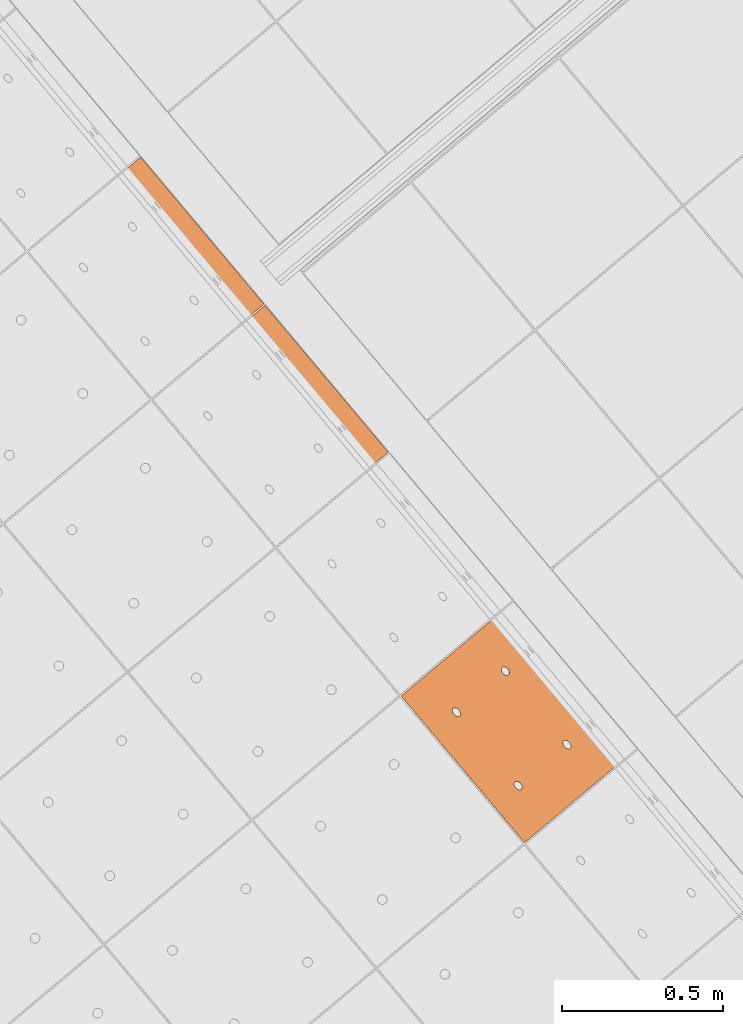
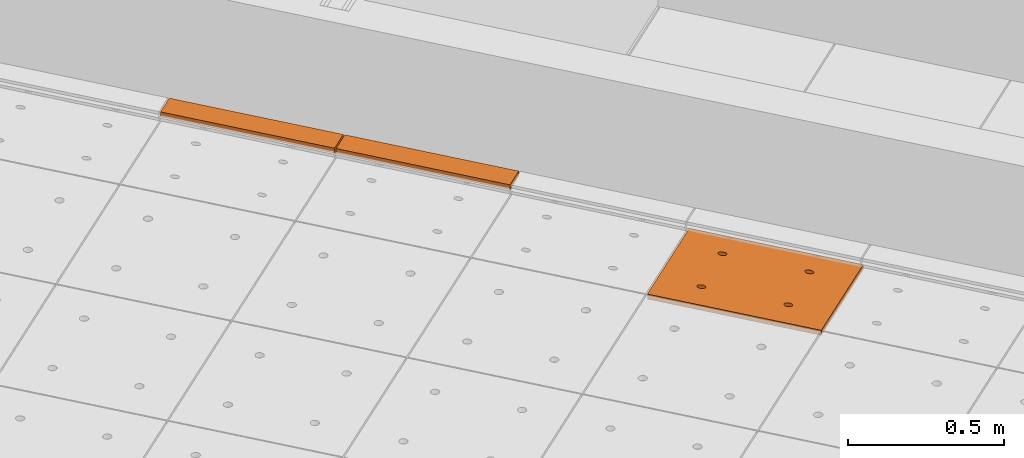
# One storey, part 207 of 338: 3 proxies, 1 element without a shape of its own.
"""IFC2X3 building model written with IfcOpenShell, lengths in millimetres."""

import ifcopenshell
import ifcopenshell.guid

model = None  # the IFC model being written
_history = None  # IfcOwnerHistory: only IFC2X3 demands one
_inside = {}  # id of a spatial element -> (the spatial element, [elements in it])
_under = {}  # id of a project, library or spatial element -> (it, [spatial elements below it])
_declared = {}  # id of a project -> (the project, [libraries it declares])
_typed = {}  # id of a type object -> (the type object, [elements of that type])
_made_of = {}  # id of a material, layer set ... -> (it, [elements and type objects made of it])


def new_model(schema):
    """Start an empty IFC model of exactly this schema.

    Asked for "IFC4X3", IfcOpenShell would pick the latest addendum, in which some entities
    have other attributes; the version numbers below select the first issue.
    IFC2X3 requires an IfcOwnerHistory on every rooted entity: one is made here for all.
    """
    global model, _history
    if schema == "IFC4X3":
        model = ifcopenshell.file(schema_version=(4, 3, 0, 0))
    else:
        model = ifcopenshell.file(schema=schema)
    _inside.clear()
    _under.clear()
    _declared.clear()
    _typed.clear()
    _made_of.clear()
    _history = None
    if model.schema == "IFC2X3":
        org = make("IfcOrganization", Name="unknown")
        user = make(
            "IfcPersonAndOrganization",
            ThePerson=make("IfcPerson", FamilyName="unknown"),
            TheOrganization=org,
        )
        app = make(
            "IfcApplication",
            ApplicationDeveloper=org,
            Version="unknown",
            ApplicationFullName="unknown",
            ApplicationIdentifier="unknown",
        )
        _history = make(
            "IfcOwnerHistory",
            OwningUser=user,
            OwningApplication=app,
            ChangeAction="ADDED",
            CreationDate=0,
        )
    return model


def make(cls, **values):
    """One entity of the class cls with the attributes given. An attribute that is None is left unset."""
    return model.create_entity(
        cls, **{name: value for name, value in values.items() if value is not None}
    )


def entity(cls, *values):
    """Any entity or typed value of the class cls, its attributes in the order of the schema. None: left unset."""
    e = model.create_entity(cls)
    for i, value in enumerate(values):
        if value is not None:
            e[i] = value
    return e


def rooted(cls, **values):
    """An entity with a GlobalId (a new one), such as an element, a storey or a relation."""
    return make(cls, GlobalId=ifcopenshell.guid.new(), OwnerHistory=_history, **values)


def si_unit(unit_type, name, prefix=None):
    """IfcSIUnit, for example si_unit("LENGTHUNIT", "METRE", prefix="MILLI")."""
    return make("IfcSIUnit", UnitType=unit_type, Prefix=prefix, Name=name)


def converted_unit(unit_type, name, factor, base, dimensions=None, offset=None):
    """IfcConversionBasedUnit, such as the inch: factor (a typed value) times the base unit."""
    return make(
        "IfcConversionBasedUnit"
        if offset is None
        else "IfcConversionBasedUnitWithOffset",
        ConversionOffset=offset,
        Dimensions=None
        if dimensions is None
        else entity("IfcDimensionalExponents", *dimensions),
        UnitType=unit_type,
        Name=name,
        ConversionFactor=make(
            "IfcMeasureWithUnit", ValueComponent=factor, UnitComponent=base
        ),
    )


def derived_unit(unit_type, elements):
    """IfcDerivedUnit: a product of units, each with its exponent."""
    return make(
        "IfcDerivedUnit",
        Elements=[
            make("IfcDerivedUnitElement", Unit=unit, Exponent=power)
            for unit, power in elements
        ],
        UnitType=unit_type,
    )


def money_unit(currency):
    """IfcMonetaryUnit."""
    return make("IfcMonetaryUnit", Currency=currency)


def assignment(units):
    """IfcUnitAssignment: the units of a project."""
    return None if units is None else make("IfcUnitAssignment", Units=units)


def point(xyz):
    """IfcCartesianPoint."""
    return None if xyz is None else make("IfcCartesianPoint", Coordinates=xyz)


def direction(xyz):
    """IfcDirection."""
    return None if xyz is None else make("IfcDirection", DirectionRatios=xyz)


def frame(location, z_axis=None, x_axis=None):
    """IfcAxis2Placement3D, a coordinate frame: its origin and axes. An axis left out is left unset."""
    return make(
        "IfcAxis2Placement3D",
        Location=point(location),
        Axis=direction(z_axis),
        RefDirection=direction(x_axis),
    )


def origin_with_axes():
    """The frame at (0, 0, 0) with the z axis (0, 0, 1) and the x axis (1, 0, 0) written out."""
    return frame((0.0, 0.0, 0.0), z_axis=(0.0, 0.0, 1.0), x_axis=(1.0, 0.0, 0.0))


def place(relative_to, where):
    """IfcLocalPlacement: puts the frame where relative to a parent placement (None: the world)."""
    return make(
        "IfcLocalPlacement", PlacementRelTo=relative_to, RelativePlacement=where
    )


def context(
    kind, dimensions, precision=None, world=None, true_north=None, identifier=None
):
    """IfcGeometricRepresentationContext, for example the 3D "Model" context."""
    return make(
        "IfcGeometricRepresentationContext",
        ContextIdentifier=identifier,
        ContextType=kind,
        CoordinateSpaceDimension=dimensions,
        Precision=precision,
        WorldCoordinateSystem=world,
        TrueNorth=true_north,
    )


def subcontext(parent, identifier, kind, view, scale=None):
    """IfcGeometricRepresentationSubContext, for example "Body" below "Model"."""
    return make(
        "IfcGeometricRepresentationSubContext",
        ContextIdentifier=identifier,
        ContextType=kind,
        ParentContext=parent,
        TargetScale=scale,
        TargetView=view,
    )


def project(units=None, contexts=None):
    """IfcProject with its units and contexts."""
    return rooted(
        "IfcProject",
        Name="project",
        RepresentationContexts=contexts,
        UnitsInContext=assignment(units),
    )


def spatial(cls, under=None, at=None, **own):
    """A site, building, storey or space (cls), placed at a placement, below another one or the project."""
    s = rooted(cls, ObjectPlacement=at, **own)
    if under is not None:
        _under.setdefault(under.id(), (under, []))[1].append(s)
    return s


def faces_of(points, faces, orient=None, outer=None):
    """IfcFace entities. A face is a list of loops; a loop is a list of indices into points, from 0.

    orient and outer hold one flag for each loop. By default every Orientation is true, the
    first loop of a face is its IfcFaceOuterBound and the others are IfcFaceBound.
    """
    made = []
    for i, loops in enumerate(faces):
        bounds = []
        for j, loop in enumerate(loops):
            is_outer = j == 0 if outer is None else outer[i][j]
            bounds.append(
                make(
                    "IfcFaceOuterBound" if is_outer else "IfcFaceBound",
                    Bound=make("IfcPolyLoop", Polygon=[points[k] for k in loop]),
                    Orientation=True if orient is None else orient[i][j],
                )
            )
        made.append(make("IfcFace", Bounds=bounds))
    return made


def faceted_brep(points, faces, orient=None, outer=None, voids=None):
    """IfcFacetedBrep: a solid bounded by flat faces; with voids (closed shells), ...WithVoids."""
    shared = [point(p) for p in points]
    hull = make("IfcClosedShell", CfsFaces=faces_of(shared, faces, orient, outer))
    if voids is None:
        return make("IfcFacetedBrep", Outer=hull)
    return make(
        "IfcFacetedBrepWithVoids",
        Outer=hull,
        Voids=[
            make(cls, CfsFaces=faces_of(shared, fs, o, b)) for cls, fs, o, b in voids
        ],
    )


def shape(context_of_items, identifier, shape_type, items):
    """IfcShapeRepresentation: the items that make up one representation, for example the "Body"."""
    return make(
        "IfcShapeRepresentation",
        ContextOfItems=context_of_items,
        RepresentationIdentifier=identifier,
        RepresentationType=shape_type,
        Items=items,
    )


def source(mapping_origin, context_of_items, identifier, shape_type, items):
    """IfcRepresentationMap: a shape defined once, which mapped items show again and again."""
    return make(
        "IfcRepresentationMap",
        MappingOrigin=mapping_origin,
        MappedRepresentation=shape(context_of_items, identifier, shape_type, items),
    )


def transform(
    local_origin,
    x_axis=None,
    y_axis=None,
    z_axis=None,
    scale=None,
    scale2=None,
    scale3=None,
    uniform=True,
):
    """IfcCartesianTransformationOperator3D, or its non-uniform kind. x_axis, y_axis, z_axis: its Axis1, 2, 3."""
    if uniform:
        return make(
            "IfcCartesianTransformationOperator3D",
            Axis1=direction(x_axis),
            Axis2=direction(y_axis),
            LocalOrigin=point(local_origin),
            Scale=scale,
            Axis3=direction(z_axis),
        )
    return make(
        "IfcCartesianTransformationOperator3DnonUniform",
        Axis1=direction(x_axis),
        Axis2=direction(y_axis),
        LocalOrigin=point(local_origin),
        Scale=scale,
        Axis3=direction(z_axis),
        Scale2=scale2,
        Scale3=scale3,
    )


def mapped(mapping_source, mapping_target):
    """IfcMappedItem: shows the shape of a source again, moved by a transform."""
    return make(
        "IfcMappedItem", MappingSource=mapping_source, MappingTarget=mapping_target
    )


def material(Name=None, Category=None):
    """IfcMaterial."""
    return make("IfcMaterial", Name=Name, Category=Category)


def made_of(thing, what):
    """Note that an element or type object is made of a material, layer set ...; save() writes the relation."""
    if what is not None:
        _made_of.setdefault(what.id(), (what, []))[1].append(thing)
    return thing


def type_object(cls, material=None, **own):
    """A type object (cls), such as IfcWallType, which elements share."""
    return made_of(rooted(cls, **own), material)


def type_shapes(of_type, sources):
    """Give a type object the sources (RepresentationMaps) that its elements show as mapped items."""
    of_type.RepresentationMaps = sources


def element(
    cls,
    number,
    at=None,
    inside=None,
    cuts=None,
    type_object=None,
    material=None,
    context=None,
    identifier="Body",
    shape_type=None,
    held_by="IfcProductDefinitionShape",
    body=None,
    shapes=None,
    **own,
):
    """One element of the class cls, such as IfcWall. Its Tag is "e" and its number.

    at: its placement. inside: the storey or other place that contains it. cuts: it is an
    opening in that element (IfcRelVoidsElement). A single representation is given by context,
    identifier, shape_type and body (its items); several are given by shapes. held_by: the class
    of the entity that holds the representations. save() writes the other relations.
    """
    e = rooted(cls, Tag="e%d" % number, ObjectPlacement=at, **own)
    if body is not None:
        shapes = [shape(context, identifier, shape_type, body)]
    if shapes is not None:
        e.Representation = make(held_by, Representations=shapes)
    if inside is not None:
        _inside.setdefault(inside.id(), (inside, []))[1].append(e)
    if cuts is not None:
        rooted(
            "IfcRelVoidsElement", RelatingBuildingElement=cuts, RelatedOpeningElement=e
        )
    if type_object is not None:
        _typed.setdefault(type_object.id(), (type_object, []))[1].append(e)
    return made_of(e, material)


def aggregate(whole, parts):
    """IfcRelAggregates: a whole, such as a stair, and the parts it consists of."""
    return rooted("IfcRelAggregates", RelatingObject=whole, RelatedObjects=parts)


def save(model, path):
    """Write the relations noted so far, then the file.

    IfcRelAggregates (storeys below a building ...), IfcRelContainedInSpatialStructure (elements
    in a storey), IfcRelDefinesByType, IfcRelAssociatesMaterial and IfcRelDeclares: one each for
    every whole, place, type object, material and project.
    """
    for whole, parts in _under.values():
        aggregate(whole, parts)
    for where, things in _inside.values():
        rooted(
            "IfcRelContainedInSpatialStructure",
            RelatedElements=things,
            RelatingStructure=where,
        )
    for kind, things in _typed.values():
        rooted("IfcRelDefinesByType", RelatedObjects=things, RelatingType=kind)
    for what, things in _made_of.values():
        rooted("IfcRelAssociatesMaterial", RelatedObjects=things, RelatingMaterial=what)
    for by, libraries in _declared.values():
        rooted("IfcRelDeclares", RelatingContext=by, RelatedDefinitions=libraries)
    model.write(path)


model = new_model("IFC2X3")

# Units and contexts
model_context = context("Model", 3, precision=0.01, world=origin_with_axes(), true_north=direction((0.0, 1.0)))
plan_context = context("Plan", 3, precision=0.01, world=origin_with_axes(), true_north=direction((0.0, 1.0)))
body_context = subcontext(model_context, "Body", "Model", "MODEL_VIEW")
ifc_project = project(units=[si_unit("LENGTHUNIT", "METRE", prefix="MILLI"), si_unit("AREAUNIT", "SQUARE_METRE"), si_unit("VOLUMEUNIT", "CUBIC_METRE"), converted_unit("PLANEANGLEUNIT", "DEGREE", entity("IfcPlaneAngleMeasure", 0.0174532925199), si_unit("PLANEANGLEUNIT", "RADIAN"), dimensions=[0, 0, 0, 0, 0, 0, 0]), money_unit("EUR"), converted_unit("TIMEUNIT", "Year", entity("IfcTimeMeasure", 31556926.0), si_unit("TIMEUNIT", "SECOND"), dimensions=[0, 0, 1, 0, 0, 0, 0]), si_unit("MASSUNIT", "GRAM", prefix="KILO"), si_unit("THERMODYNAMICTEMPERATUREUNIT", "DEGREE_CELSIUS"), si_unit("LUMINOUSINTENSITYUNIT", "LUMEN"), si_unit("ENERGYUNIT", "JOULE", prefix="MEGA"), derived_unit("THERMALCONDUCTANCEUNIT", [(si_unit("POWERUNIT", "WATT"), 1), (si_unit("LENGTHUNIT", "METRE"), -1), (si_unit("THERMODYNAMICTEMPERATUREUNIT", "KELVIN"), -1)]), derived_unit("SPECIFICHEATCAPACITYUNIT", [(si_unit("ENERGYUNIT", "JOULE"), 1), (si_unit("MASSUNIT", "GRAM", prefix="KILO"), -1), (si_unit("THERMODYNAMICTEMPERATUREUNIT", "KELVIN"), -1)]), derived_unit("MASSDENSITYUNIT", [(si_unit("MASSUNIT", "GRAM", prefix="KILO"), 1), (si_unit("VOLUMEUNIT", "CUBIC_METRE"), -1)])], contexts=[model_context, plan_context])

# Site, building, storey
site_placement = place(None, origin_with_axes())
site = spatial("IfcSite", under=ifc_project, at=site_placement, Name="Fortuinstraat Woensdrecht", CompositionType="ELEMENT")
building_placement = place(site_placement, origin_with_axes())
building = spatial("IfcBuilding", under=site, at=building_placement, Name="IKC Fortuna", CompositionType="ELEMENT")
storey_placement = place(building_placement, origin_with_axes())
storey = spatial("IfcBuildingStorey", under=building, at=storey_placement, Name="00 begane grond", CompositionType="ELEMENT", Elevation=0.0)

# Covering, proxies
covering_type = type_object("IfcCoveringType", Name="Curtain Wall Type", PredefinedType="CEILING")
covering_placement = place(storey_placement, frame((15863.124366, 4456.31398675, 4619.99995334), z_axis=(0.0, 0.0, 1.0), x_axis=(1.0, 0.0, 0.0)))
covering = element("IfcCovering", 1, at=covering_placement, inside=storey, type_object=covering_type, Name="45_Plafondafwerking_P01", PredefinedType="CEILING")
ifc_material = material(Name="Gipsplaat")
building_element_proxy_type_1 = type_object("IfcBuildingElementProxyType", Name="87 x 600 x 20", PredefinedType="NOTDEFINED")
shared_shape_1 = source(origin_with_axes(), body_context, "Body", "Brep", [
    faceted_brep([(142.231818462, 2.49999429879, -10.0), (224.589025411, 2.49999726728, -10.0), (224.589025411, 2.49999726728, 10.0), (142.231818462, 2.49999429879, 10.0), (142.231833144, 597.500001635, -10.0), (224.589035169, 597.499998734, -10.0), (224.589035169, 597.499998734, 10.0), (142.231833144, 597.500001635, 10.0)], [[[0, 1, 2, 3]], [[0, 4, 5, 1]], [[1, 5, 6, 2]], [[3, 2, 6, 7]], [[4, 0, 3, 7]], [[5, 4, 7, 6]]]),
])
proxy_1_placement = place(covering_placement, frame((-2141.31597643, 2551.91971534, 40.0000466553), z_axis=(0.0, 0.0, 1.0), x_axis=(1.0, 0.0, 0.0)))
proxy_1 = element("IfcBuildingElementProxy", 2, at=proxy_1_placement, type_object=building_element_proxy_type_1, material=ifc_material, Name="__600x668 Rockfon Krios", context=body_context, shape_type="MappedRepresentation", body=[
    mapped(shared_shape_1, transform((-52.3358293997, 347.707272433, -1.1901590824e-10), x_axis=(-0.766044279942, -0.642787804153, 0.0), y_axis=(0.642787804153, -0.766044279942, 0.0), z_axis=(0.0, 0.0, 1.0))),
])
shared_shape_2 = source(origin_with_axes(), body_context, "Body", "Brep", [
    faceted_brep([(142.231823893, 2.49999437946, -10.0), (224.589030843, 2.49999734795, -10.0), (224.589030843, 2.49999734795, 10.0), (142.231823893, 2.49999437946, 10.0), (142.231833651, 597.499995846, -10.0), (224.5890406, 597.499998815, -10.0), (224.5890406, 597.499998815, 10.0), (142.231833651, 597.499995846, 10.0)], [[[0, 1, 2, 3]], [[0, 4, 5, 1]], [[1, 5, 6, 2]], [[3, 2, 6, 7]], [[4, 0, 3, 7]], [[5, 4, 7, 6]]]),
])
type_shapes(building_element_proxy_type_1, [shared_shape_1, shared_shape_2])
proxy_2_placement = place(covering_placement, frame((-2526.98865892, 3011.5462833, 40.0000466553), z_axis=(0.0, 0.0, 1.0), x_axis=(1.0, 0.0, 0.0)))
proxy_2 = element("IfcBuildingElementProxy", 3, at=proxy_2_placement, type_object=building_element_proxy_type_1, material=ifc_material, Name="__600x687 Rockfon Krios", context=body_context, shape_type="MappedRepresentation", body=[
    mapped(shared_shape_2, transform((-52.3358293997, 347.707272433, -1.1901590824e-10), x_axis=(-0.766044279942, -0.642787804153, 0.0), y_axis=(0.642787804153, -0.766044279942, 0.0), z_axis=(0.0, 0.0, 1.0))),
])
building_element_proxy_type_2 = type_object("IfcBuildingElementProxyType", Name="Main Panel 401 x 600 x 20", PredefinedType="NOTDEFINED")
shared_shape_3 = source(origin_with_axes(), body_context, "Body", "Brep", [
    faceted_brep([(2.49999200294, 2.49999800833, -10.0), (200.390796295, 2.49999800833, -10.0), (200.390796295, 2.49999800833, 10.0), (2.49999200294, 2.49999800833, 10.0), (2.49999200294, 299.999999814, -10.0), (2.49999200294, 597.50000162, -10.0), (200.390796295, 597.50000162, -10.0), (398.281600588, 597.50000162, -10.0), (398.281600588, 299.999999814, -10.0), (398.281600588, 2.49999800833, -10.0), (111.423081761, 450.062330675, -10.0), (111.119914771, 452.647116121, -10.0), (110.522792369, 455.113489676, -10.0), (109.649857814, 457.38651185, -10.0), (108.527634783, 459.397117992, -10.0), (107.190221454, 461.084216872, -10.0), (105.678254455, 462.39654683, -10.0), (104.037674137, 463.294233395, -10.0), (102.318328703, 463.750000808, -10.0), (100.572459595, 463.750000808, -10.0), (98.8531141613, 463.294233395, -10.0), (97.212533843, 462.39654683, -10.0), (95.7005668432, 461.084216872, -10.0), (94.3631535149, 459.397117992, -10.0), (93.240930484, 457.38651185, -10.0), (92.3679959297, 455.113489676, -10.0), (91.7708735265, 452.647116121, -10.0), (91.4677065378, 450.062330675, -10.0), (91.4677065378, 448.750000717, -10.0), (91.4677065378, 447.437670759, -10.0), (91.7708735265, 444.852885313, -10.0), (92.3679959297, 442.386511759, -10.0), (93.240930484, 440.113489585, -10.0), (94.3631535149, 438.102883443, -10.0), (95.7005668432, 436.415784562, -10.0), (97.212533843, 435.103454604, -10.0), (98.8531141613, 434.205768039, -10.0), (100.572459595, 433.750000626, -10.0), (102.318328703, 433.750000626, -10.0), (104.037674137, 434.205768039, -10.0), (105.678254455, 435.103454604, -10.0), (107.190221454, 436.415784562, -10.0), (108.527634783, 438.102883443, -10.0), (109.649857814, 440.113489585, -10.0), (110.522792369, 442.386511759, -10.0), (111.119914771, 444.852885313, -10.0), (111.423081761, 447.437670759, -10.0), (309.313886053, 450.062330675, -10.0), (309.010719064, 452.647116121, -10.0), (308.413596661, 455.113489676, -10.0), (307.540662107, 457.38651185, -10.0), (306.418439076, 459.397117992, -10.0), (305.081025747, 461.084216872, -10.0), (303.569058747, 462.39654683, -10.0), (301.928478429, 463.294233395, -10.0), (300.209132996, 463.750000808, -10.0), (298.463263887, 463.750000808, -10.0), (296.743918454, 463.294233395, -10.0), (295.103338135, 462.39654683, -10.0), (293.591371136, 461.084216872, -10.0), (292.253957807, 459.397117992, -10.0), (291.131734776, 457.38651185, -10.0), (290.258800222, 455.113489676, -10.0), (289.661677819, 452.647116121, -10.0), (289.35851083, 450.062330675, -10.0), (289.35851083, 448.750000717, -10.0), (289.35851083, 447.437670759, -10.0), (289.661677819, 444.852885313, -10.0), (290.258800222, 442.386511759, -10.0), (291.131734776, 440.113489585, -10.0), (292.253957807, 438.102883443, -10.0), (293.591371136, 436.415784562, -10.0), (295.103338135, 435.103454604, -10.0), (296.743918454, 434.205768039, -10.0), (298.463263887, 433.750000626, -10.0), (300.209132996, 433.750000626, -10.0), (301.928478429, 434.205768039, -10.0), (303.569058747, 435.103454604, -10.0), (305.081025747, 436.415784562, -10.0), (306.418439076, 438.102883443, -10.0), (307.540662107, 440.113489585, -10.0), (308.413596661, 442.386511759, -10.0), (309.010719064, 444.852885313, -10.0), (309.313886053, 447.437670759, -10.0), (309.313886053, 152.562328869, -10.0), (309.010719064, 155.147114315, -10.0), (308.413596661, 157.61348787, -10.0), (307.540662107, 159.886510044, -10.0), (306.418439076, 161.897116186, -10.0), (305.081025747, 163.584215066, -10.0), (303.569058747, 164.896545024, -10.0), (301.928478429, 165.79423159, -10.0), (300.209132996, 166.249999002, -10.0), (298.463263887, 166.249999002, -10.0), (296.743918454, 165.79423159, -10.0), (295.103338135, 164.896545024, -10.0), (293.591371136, 163.584215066, -10.0), (292.253957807, 161.897116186, -10.0), (291.131734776, 159.886510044, -10.0), (290.258800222, 157.61348787, -10.0), (289.661677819, 155.147114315, -10.0), (289.35851083, 152.562328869, -10.0), (289.35851083, 151.249998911, -10.0), (289.35851083, 149.937668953, -10.0), (289.661677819, 147.352883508, -10.0), (290.258800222, 144.886509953, -10.0), (291.131734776, 142.613487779, -10.0), (292.253957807, 140.602881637, -10.0), (293.591371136, 138.915782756, -10.0), (295.103338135, 137.603452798, -10.0), (296.743918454, 136.705766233, -10.0), (298.463263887, 136.24999882, -10.0), (300.209132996, 136.24999882, -10.0), (301.928478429, 136.705766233, -10.0), (303.569058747, 137.603452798, -10.0), (305.081025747, 138.915782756, -10.0), (306.418439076, 140.602881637, -10.0), (307.540662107, 142.613487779, -10.0), (308.413596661, 144.886509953, -10.0), (309.010719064, 147.352883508, -10.0), (309.313886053, 149.937668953, -10.0), (111.423081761, 152.562328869, -10.0), (111.119914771, 155.147114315, -10.0), (110.522792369, 157.61348787, -10.0), (109.649857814, 159.886510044, -10.0), (108.527634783, 161.897116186, -10.0), (107.190221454, 163.584215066, -10.0), (105.678254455, 164.896545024, -10.0), (104.037674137, 165.79423159, -10.0), (102.318328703, 166.249999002, -10.0), (100.572459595, 166.249999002, -10.0), (98.8531141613, 165.79423159, -10.0), (97.212533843, 164.896545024, -10.0), (95.7005668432, 163.584215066, -10.0), (94.3631535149, 161.897116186, -10.0), (93.240930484, 159.886510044, -10.0), (92.3679959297, 157.61348787, -10.0), (91.7708735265, 155.147114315, -10.0), (91.4677065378, 152.562328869, -10.0), (91.4677065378, 151.249998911, -10.0), (91.4677065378, 149.937668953, -10.0), (91.7708735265, 147.352883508, -10.0), (92.3679959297, 144.886509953, -10.0), (93.240930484, 142.613487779, -10.0), (94.3631535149, 140.602881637, -10.0), (95.7005668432, 138.915782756, -10.0), (97.212533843, 137.603452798, -10.0), (98.8531141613, 136.705766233, -10.0), (100.572459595, 136.24999882, -10.0), (102.318328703, 136.24999882, -10.0), (104.037674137, 136.705766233, -10.0), (105.678254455, 137.603452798, -10.0), (107.190221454, 138.915782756, -10.0), (108.527634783, 140.602881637, -10.0), (109.649857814, 142.613487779, -10.0), (110.522792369, 144.886509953, -10.0), (111.119914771, 147.352883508, -10.0), (111.423081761, 149.937668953, -10.0), (398.281600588, 2.49999800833, 10.0), (398.281600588, 299.999999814, 10.0), (398.281600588, 597.50000162, 10.0), (200.390796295, 597.50000162, 10.0), (2.49999200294, 597.50000162, 10.0), (2.49999200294, 299.999999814, 10.0), (111.423081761, 450.062330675, 10.0), (111.423081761, 447.437670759, 10.0), (111.119914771, 444.852885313, 10.0), (110.522792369, 442.386511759, 10.0), (109.649857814, 440.113489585, 10.0), (108.527634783, 438.102883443, 10.0), (107.190221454, 436.415784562, 10.0), (105.678254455, 435.103454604, 10.0), (104.037674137, 434.205768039, 10.0), (102.318328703, 433.750000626, 10.0), (100.572459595, 433.750000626, 10.0), (98.8531141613, 434.205768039, 10.0), (97.212533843, 435.103454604, 10.0), (95.7005668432, 436.415784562, 10.0), (94.3631535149, 438.102883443, 10.0), (93.240930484, 440.113489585, 10.0), (92.3679959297, 442.386511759, 10.0), (91.7708735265, 444.852885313, 10.0), (91.4677065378, 447.437670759, 10.0), (91.4677065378, 448.750000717, 10.0), (91.4677065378, 450.062330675, 10.0), (91.7708735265, 452.647116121, 10.0), (92.3679959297, 455.113489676, 10.0), (93.240930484, 457.38651185, 10.0), (94.3631535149, 459.397117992, 10.0), (95.7005668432, 461.084216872, 10.0), (97.212533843, 462.39654683, 10.0), (98.8531141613, 463.294233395, 10.0), (100.572459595, 463.750000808, 10.0), (102.318328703, 463.750000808, 10.0), (104.037674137, 463.294233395, 10.0), (105.678254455, 462.39654683, 10.0), (107.190221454, 461.084216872, 10.0), (108.527634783, 459.397117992, 10.0), (109.649857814, 457.38651185, 10.0), (110.522792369, 455.113489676, 10.0), (111.119914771, 452.647116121, 10.0), (309.313886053, 450.062330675, 10.0), (309.313886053, 447.437670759, 10.0), (309.010719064, 444.852885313, 10.0), (308.413596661, 442.386511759, 10.0), (307.540662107, 440.113489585, 10.0), (306.418439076, 438.102883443, 10.0), (305.081025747, 436.415784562, 10.0), (303.569058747, 435.103454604, 10.0), (301.928478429, 434.205768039, 10.0), (300.209132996, 433.750000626, 10.0), (298.463263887, 433.750000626, 10.0), (296.743918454, 434.205768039, 10.0), (295.103338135, 435.103454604, 10.0), (293.591371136, 436.415784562, 10.0), (292.253957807, 438.102883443, 10.0), (291.131734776, 440.113489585, 10.0), (290.258800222, 442.386511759, 10.0), (289.661677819, 444.852885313, 10.0), (289.35851083, 447.437670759, 10.0), (289.35851083, 448.750000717, 10.0), (289.35851083, 450.062330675, 10.0), (289.661677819, 452.647116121, 10.0), (290.258800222, 455.113489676, 10.0), (291.131734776, 457.38651185, 10.0), (292.253957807, 459.397117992, 10.0), (293.591371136, 461.084216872, 10.0), (295.103338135, 462.39654683, 10.0), (296.743918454, 463.294233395, 10.0), (298.463263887, 463.750000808, 10.0), (300.209132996, 463.750000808, 10.0), (301.928478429, 463.294233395, 10.0), (303.569058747, 462.39654683, 10.0), (305.081025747, 461.084216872, 10.0), (306.418439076, 459.397117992, 10.0), (307.540662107, 457.38651185, 10.0), (308.413596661, 455.113489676, 10.0), (309.010719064, 452.647116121, 10.0), (309.313886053, 152.562328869, 10.0), (309.313886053, 149.937668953, 10.0), (309.010719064, 147.352883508, 10.0), (308.413596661, 144.886509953, 10.0), (307.540662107, 142.613487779, 10.0), (306.418439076, 140.602881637, 10.0), (305.081025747, 138.915782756, 10.0), (303.569058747, 137.603452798, 10.0), (301.928478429, 136.705766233, 10.0), (300.209132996, 136.24999882, 10.0), (298.463263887, 136.24999882, 10.0), (296.743918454, 136.705766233, 10.0), (295.103338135, 137.603452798, 10.0), (293.591371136, 138.915782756, 10.0), (292.253957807, 140.602881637, 10.0), (291.131734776, 142.613487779, 10.0), (290.258800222, 144.886509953, 10.0), (289.661677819, 147.352883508, 10.0), (289.35851083, 149.937668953, 10.0), (289.35851083, 151.249998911, 10.0), (289.35851083, 152.562328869, 10.0), (289.661677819, 155.147114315, 10.0), (290.258800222, 157.61348787, 10.0), (291.131734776, 159.886510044, 10.0), (292.253957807, 161.897116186, 10.0), (293.591371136, 163.584215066, 10.0), (295.103338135, 164.896545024, 10.0), (296.743918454, 165.79423159, 10.0), (298.463263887, 166.249999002, 10.0), (300.209132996, 166.249999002, 10.0), (301.928478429, 165.79423159, 10.0), (303.569058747, 164.896545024, 10.0), (305.081025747, 163.584215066, 10.0), (306.418439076, 161.897116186, 10.0), (307.540662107, 159.886510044, 10.0), (308.413596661, 157.61348787, 10.0), (309.010719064, 155.147114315, 10.0), (111.423081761, 152.562328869, 10.0), (111.423081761, 149.937668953, 10.0), (111.119914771, 147.352883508, 10.0), (110.522792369, 144.886509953, 10.0), (109.649857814, 142.613487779, 10.0), (108.527634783, 140.602881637, 10.0), (107.190221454, 138.915782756, 10.0), (105.678254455, 137.603452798, 10.0), (104.037674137, 136.705766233, 10.0), (102.318328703, 136.24999882, 10.0), (100.572459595, 136.24999882, 10.0), (98.8531141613, 136.705766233, 10.0), (97.212533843, 137.603452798, 10.0), (95.7005668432, 138.915782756, 10.0), (94.3631535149, 140.602881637, 10.0), (93.240930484, 142.613487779, 10.0), (92.3679959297, 144.886509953, 10.0), (91.7708735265, 147.352883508, 10.0), (91.4677065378, 149.937668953, 10.0), (91.4677065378, 151.249998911, 10.0), (91.4677065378, 152.562328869, 10.0), (91.7708735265, 155.147114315, 10.0), (92.3679959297, 157.61348787, 10.0), (93.240930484, 159.886510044, 10.0), (94.3631535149, 161.897116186, 10.0), (95.7005668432, 163.584215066, 10.0), (97.212533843, 164.896545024, 10.0), (98.8531141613, 165.79423159, 10.0), (100.572459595, 166.249999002, 10.0), (102.318328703, 166.249999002, 10.0), (104.037674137, 165.79423159, 10.0), (105.678254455, 164.896545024, 10.0), (107.190221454, 163.584215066, 10.0), (108.527634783, 161.897116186, 10.0), (109.649857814, 159.886510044, 10.0), (110.522792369, 157.61348787, 10.0), (111.119914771, 155.147114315, 10.0)], [[[0, 1, 2, 3]], [[0, 4, 5, 6, 7, 8, 9, 1], [10, 11, 12, 13, 14, 15, 16, 17, 18, 19, 20, 21, 22, 23, 24, 25, 26, 27, 28, 29, 30, 31, 32, 33, 34, 35, 36, 37, 38, 39, 40, 41, 42, 43, 44, 45, 46], [47, 48, 49, 50, 51, 52, 53, 54, 55, 56, 57, 58, 59, 60, 61, 62, 63, 64, 65, 66, 67, 68, 69, 70, 71, 72, 73, 74, 75, 76, 77, 78, 79, 80, 81, 82, 83], [84, 85, 86, 87, 88, 89, 90, 91, 92, 93, 94, 95, 96, 97, 98, 99, 100, 101, 102, 103, 104, 105, 106, 107, 108, 109, 110, 111, 112, 113, 114, 115, 116, 117, 118, 119, 120], [121, 122, 123, 124, 125, 126, 127, 128, 129, 130, 131, 132, 133, 134, 135, 136, 137, 138, 139, 140, 141, 142, 143, 144, 145, 146, 147, 148, 149, 150, 151, 152, 153, 154, 155, 156, 157]], [[1, 9, 158, 2]], [[3, 2, 158, 159, 160, 161, 162, 163], [164, 165, 166, 167, 168, 169, 170, 171, 172, 173, 174, 175, 176, 177, 178, 179, 180, 181, 182, 183, 184, 185, 186, 187, 188, 189, 190, 191, 192, 193, 194, 195, 196, 197, 198, 199, 200], [201, 202, 203, 204, 205, 206, 207, 208, 209, 210, 211, 212, 213, 214, 215, 216, 217, 218, 219, 220, 221, 222, 223, 224, 225, 226, 227, 228, 229, 230, 231, 232, 233, 234, 235, 236, 237], [238, 239, 240, 241, 242, 243, 244, 245, 246, 247, 248, 249, 250, 251, 252, 253, 254, 255, 256, 257, 258, 259, 260, 261, 262, 263, 264, 265, 266, 267, 268, 269, 270, 271, 272, 273, 274], [275, 276, 277, 278, 279, 280, 281, 282, 283, 284, 285, 286, 287, 288, 289, 290, 291, 292, 293, 294, 295, 296, 297, 298, 299, 300, 301, 302, 303, 304, 305, 306, 307, 308, 309, 310, 311]], [[4, 0, 3, 163]], [[5, 4, 163, 162]], [[6, 5, 162, 161]], [[7, 6, 161, 160]], [[8, 7, 160, 159]], [[9, 8, 159, 158]], [[11, 10, 164, 200]], [[12, 11, 200, 199]], [[13, 12, 199, 198]], [[14, 13, 198, 197]], [[15, 14, 197, 196]], [[16, 15, 196, 195]], [[17, 16, 195, 194]], [[18, 17, 194, 193]], [[19, 18, 193, 192]], [[20, 19, 192, 191]], [[21, 20, 191, 190]], [[22, 21, 190, 189]], [[23, 22, 189, 188]], [[24, 23, 188, 187]], [[25, 24, 187, 186]], [[26, 25, 186, 185]], [[27, 26, 185, 184]], [[28, 27, 184, 183]], [[29, 28, 183, 182]], [[30, 29, 182, 181]], [[31, 30, 181, 180]], [[32, 31, 180, 179]], [[33, 32, 179, 178]], [[34, 33, 178, 177]], [[35, 34, 177, 176]], [[36, 35, 176, 175]], [[37, 36, 175, 174]], [[38, 37, 174, 173]], [[39, 38, 173, 172]], [[40, 39, 172, 171]], [[41, 40, 171, 170]], [[42, 41, 170, 169]], [[43, 42, 169, 168]], [[44, 43, 168, 167]], [[45, 44, 167, 166]], [[46, 45, 166, 165]], [[10, 46, 165, 164]], [[48, 47, 201, 237]], [[49, 48, 237, 236]], [[50, 49, 236, 235]], [[51, 50, 235, 234]], [[52, 51, 234, 233]], [[53, 52, 233, 232]], [[54, 53, 232, 231]], [[55, 54, 231, 230]], [[56, 55, 230, 229]], [[57, 56, 229, 228]], [[58, 57, 228, 227]], [[59, 58, 227, 226]], [[60, 59, 226, 225]], [[61, 60, 225, 224]], [[62, 61, 224, 223]], [[63, 62, 223, 222]], [[64, 63, 222, 221]], [[65, 64, 221, 220]], [[66, 65, 220, 219]], [[67, 66, 219, 218]], [[68, 67, 218, 217]], [[69, 68, 217, 216]], [[70, 69, 216, 215]], [[71, 70, 215, 214]], [[72, 71, 214, 213]], [[73, 72, 213, 212]], [[74, 73, 212, 211]], [[75, 74, 211, 210]], [[76, 75, 210, 209]], [[77, 76, 209, 208]], [[78, 77, 208, 207]], [[79, 78, 207, 206]], [[80, 79, 206, 205]], [[81, 80, 205, 204]], [[82, 81, 204, 203]], [[83, 82, 203, 202]], [[47, 83, 202, 201]], [[85, 84, 238, 274]], [[86, 85, 274, 273]], [[87, 86, 273, 272]], [[88, 87, 272, 271]], [[89, 88, 271, 270]], [[90, 89, 270, 269]], [[91, 90, 269, 268]], [[92, 91, 268, 267]], [[93, 92, 267, 266]], [[94, 93, 266, 265]], [[95, 94, 265, 264]], [[96, 95, 264, 263]], [[97, 96, 263, 262]], [[98, 97, 262, 261]], [[99, 98, 261, 260]], [[100, 99, 260, 259]], [[101, 100, 259, 258]], [[102, 101, 258, 257]], [[103, 102, 257, 256]], [[104, 103, 256, 255]], [[105, 104, 255, 254]], [[106, 105, 254, 253]], [[107, 106, 253, 252]], [[108, 107, 252, 251]], [[109, 108, 251, 250]], [[110, 109, 250, 249]], [[111, 110, 249, 248]], [[112, 111, 248, 247]], [[113, 112, 247, 246]], [[114, 113, 246, 245]], [[115, 114, 245, 244]], [[116, 115, 244, 243]], [[117, 116, 243, 242]], [[118, 117, 242, 241]], [[119, 118, 241, 240]], [[120, 119, 240, 239]], [[84, 120, 239, 238]], [[122, 121, 275, 311]], [[123, 122, 311, 310]], [[124, 123, 310, 309]], [[125, 124, 309, 308]], [[126, 125, 308, 307]], [[127, 126, 307, 306]], [[128, 127, 306, 305]], [[129, 128, 305, 304]], [[130, 129, 304, 303]], [[131, 130, 303, 302]], [[132, 131, 302, 301]], [[133, 132, 301, 300]], [[134, 133, 300, 299]], [[135, 134, 299, 298]], [[136, 135, 298, 297]], [[137, 136, 297, 296]], [[138, 137, 296, 295]], [[139, 138, 295, 294]], [[140, 139, 294, 293]], [[141, 140, 293, 292]], [[142, 141, 292, 291]], [[143, 142, 291, 290]], [[144, 143, 290, 289]], [[145, 144, 289, 288]], [[146, 145, 288, 287]], [[147, 146, 287, 286]], [[148, 147, 286, 285]], [[149, 148, 285, 284]], [[150, 149, 284, 283]], [[151, 150, 283, 282]], [[152, 151, 282, 281]], [[153, 152, 281, 280]], [[154, 153, 280, 279]], [[155, 154, 279, 278]], [[156, 155, 278, 277]], [[157, 156, 277, 276]], [[121, 157, 276, 275]]]),
])
type_shapes(building_element_proxy_type_2, [shared_shape_3])
proxy_3_placement = place(covering_placement, frame((-1535.66900692, 1493.62904519, 1.08315923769), z_axis=(0.0, 0.0, 1.0), x_axis=(0.642787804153, -0.766044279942, 0.0)))
proxy_3 = element("IfcBuildingElementProxy", 4, at=proxy_3_placement, type_object=building_element_proxy_type_2, material=ifc_material, Name="__600x022 Rockfon Krios", context=body_context, shape_type="MappedRepresentation", body=[
    mapped(shared_shape_3, transform((-300.0, 200.387875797, -1.08311258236), x_axis=(0.0, -0.999985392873, 0.00540500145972), y_axis=(1.0, 0.0, 0.0), z_axis=(0.0, 0.00540500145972, 0.999985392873))),
])
aggregate(covering, [proxy_1, proxy_2, proxy_3])

save(model, "model.ifc")
